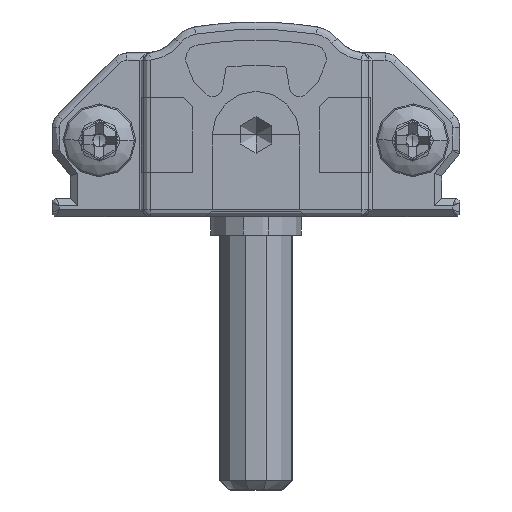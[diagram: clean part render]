
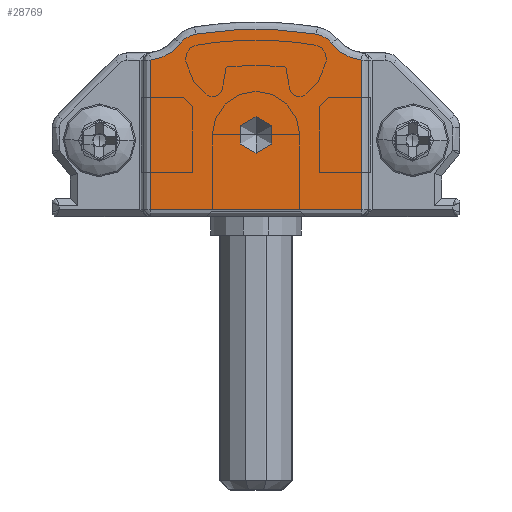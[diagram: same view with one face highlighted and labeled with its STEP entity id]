
A CAD part, front view. The second image highlights one B-rep face of the part: STEP entity #28769.
In plain terms, the highlighted planar face has unit normal (0, -1, 0).
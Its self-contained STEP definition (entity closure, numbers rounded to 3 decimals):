
#911 = EDGE_CURVE ( 'NONE', #23793, #43796, #14870, .T. ) ;
#1487 = LINE ( 'NONE', #26955, #41962 ) ;
#3488 = CARTESIAN_POINT ( 'NONE',  ( 17., -15., 8.612 ) ) ;
#3626 = CIRCLE ( 'NONE', #8170, 2.4 ) ;
#3684 = VERTEX_POINT ( 'NONE', #43825 ) ;
#3905 = EDGE_LOOP ( 'NONE', ( #8426, #6649 ) ) ;
#4184 = AXIS2_PLACEMENT_3D ( 'NONE', #19915, #5126, #45214 ) ;
#4241 = CARTESIAN_POINT ( 'NONE',  ( 11.2, -15., 4.5 ) ) ;
#4908 = AXIS2_PLACEMENT_3D ( 'NONE', #35182, #35852, #28516 ) ;
#5126 = DIRECTION ( 'NONE',  ( 0., -1., 0. ) ) ;
#5432 = CARTESIAN_POINT ( 'NONE',  ( 17.238, -15., 11. ) ) ;
#5562 = CARTESIAN_POINT ( 'NONE',  ( 15.332, -15., 9.541 ) ) ;
#6187 = VERTEX_POINT ( 'NONE', #8931 ) ;
#6649 = ORIENTED_EDGE ( 'NONE', *, *, #23174, .F. ) ;
#6765 = CARTESIAN_POINT ( 'NONE',  ( 11.2, -15., 5.5 ) ) ;
#7581 = CIRCLE ( 'NONE', #21248, 1.3 ) ;
#7962 = DIRECTION ( 'NONE',  ( 0., 0., -1. ) ) ;
#8170 = AXIS2_PLACEMENT_3D ( 'NONE', #5432, #45305, #12104 ) ;
#8426 = ORIENTED_EDGE ( 'NONE', *, *, #34293, .F. ) ;
#8850 = DIRECTION ( 'NONE',  ( 0., 0., -1. ) ) ;
#8931 = CARTESIAN_POINT ( 'NONE',  ( 5.4, -15., 8.612 ) ) ;
#11026 = PLANE ( 'NONE',  #46369 ) ;
#11241 = FACE_BOUND ( 'NONE', #3905, .T. ) ;
#11288 = CARTESIAN_POINT ( 'NONE',  ( 8.1, -15., 8.75 ) ) ;
#12034 = CIRCLE ( 'NONE', #44617, 1. ) ;
#12104 = DIRECTION ( 'NONE',  ( 0., 0., -1. ) ) ;
#12309 = VERTEX_POINT ( 'NONE', #45259 ) ;
#12486 = DIRECTION ( 'NONE',  ( 0., 0., -1. ) ) ;
#13040 = ORIENTED_EDGE ( 'NONE', *, *, #13323, .T. ) ;
#13184 = DIRECTION ( 'NONE',  ( 0., 0., -1. ) ) ;
#13323 = EDGE_CURVE ( 'NONE', #27069, #43384, #7581, .T. ) ;
#14870 = CIRCLE ( 'NONE', #41455, 1.3 ) ;
#15030 = FACE_OUTER_BOUND ( 'NONE', #29465, .T. ) ;
#15079 = DIRECTION ( 'NONE',  ( 0., -1., 0. ) ) ;
#15258 = CARTESIAN_POINT ( 'NONE',  ( 7.068, -15., 9.541 ) ) ;
#15341 = CARTESIAN_POINT ( 'NONE',  ( 5.4, -15., 0.4 ) ) ;
#18164 = DIRECTION ( 'NONE',  ( 0., -1., 0. ) ) ;
#18787 = CARTESIAN_POINT ( 'NONE',  ( 7.892, -15., 10.034 ) ) ;
#18805 = DIRECTION ( 'NONE',  ( 0., -1., 0. ) ) ;
#19141 = CARTESIAN_POINT ( 'NONE',  ( 22.15, -15., 3.606 ) ) ;
#19181 = EDGE_CURVE ( 'NONE', #6187, #28513, #1487, .T. ) ;
#19602 = ORIENTED_EDGE ( 'NONE', *, *, #19181, .T. ) ;
#19915 = CARTESIAN_POINT ( 'NONE',  ( 11.2, -15., -10.376 ) ) ;
#21248 = AXIS2_PLACEMENT_3D ( 'NONE', #27253, #41479, #12486 ) ;
#21465 = ORIENTED_EDGE ( 'NONE', *, *, #911, .T. ) ;
#21710 = LINE ( 'NONE', #46753, #42623 ) ;
#21777 = DIRECTION ( 'NONE',  ( 0., 0., -1. ) ) ;
#23174 = EDGE_CURVE ( 'NONE', #30959, #3684, #35894, .T. ) ;
#23793 = VERTEX_POINT ( 'NONE', #18787 ) ;
#24737 = CIRCLE ( 'NONE', #4908, 2.4 ) ;
#24998 = LINE ( 'NONE', #3488, #40081 ) ;
#25778 = VERTEX_POINT ( 'NONE', #46920 ) ;
#26508 = EDGE_CURVE ( 'NONE', #25778, #12309, #24998, .T. ) ;
#26876 = ORIENTED_EDGE ( 'NONE', *, *, #36060, .T. ) ;
#26955 = CARTESIAN_POINT ( 'NONE',  ( 5.4, -15., 0.4 ) ) ;
#27069 = VERTEX_POINT ( 'NONE', #5562 ) ;
#27253 = CARTESIAN_POINT ( 'NONE',  ( 14.3, -15., 8.75 ) ) ;
#28513 = VERTEX_POINT ( 'NONE', #15341 ) ;
#28516 = DIRECTION ( 'NONE',  ( 0., 0., -1. ) ) ;
#28769 = ADVANCED_FACE ( 'NONE', ( #15030, #11241 ), #11026, .T. ) ;
#29465 = EDGE_LOOP ( 'NONE', ( #45457, #37501, #13040, #30384, #21465, #40615, #19602, #26876 ) ) ;
#30384 = ORIENTED_EDGE ( 'NONE', *, *, #38260, .T. ) ;
#30959 = VERTEX_POINT ( 'NONE', #6765 ) ;
#32620 = EDGE_CURVE ( 'NONE', #43796, #6187, #24737, .T. ) ;
#33037 = DIRECTION ( 'NONE',  ( 1., 0., 0. ) ) ;
#33246 = DIRECTION ( 'NONE',  ( 0., 0., -1. ) ) ;
#34293 = EDGE_CURVE ( 'NONE', #3684, #30959, #12034, .T. ) ;
#34302 = EDGE_CURVE ( 'NONE', #12309, #27069, #3626, .T. ) ;
#35182 = CARTESIAN_POINT ( 'NONE',  ( 5.162, -15., 11. ) ) ;
#35502 = DIRECTION ( 'NONE',  ( 0., -1., 0. ) ) ;
#35852 = DIRECTION ( 'NONE',  ( 0., 1., 0. ) ) ;
#35894 = CIRCLE ( 'NONE', #38949, 1. ) ;
#36060 = EDGE_CURVE ( 'NONE', #28513, #25778, #21710, .T. ) ;
#36784 = CARTESIAN_POINT ( 'NONE',  ( 14.508, -15., 10.034 ) ) ;
#37501 = ORIENTED_EDGE ( 'NONE', *, *, #34302, .T. ) ;
#38260 = EDGE_CURVE ( 'NONE', #43384, #23793, #42886, .T. ) ;
#38949 = AXIS2_PLACEMENT_3D ( 'NONE', #45693, #35502, #13184 ) ;
#40081 = VECTOR ( 'NONE', #43180, 1000. ) ;
#40615 = ORIENTED_EDGE ( 'NONE', *, *, #32620, .T. ) ;
#41455 = AXIS2_PLACEMENT_3D ( 'NONE', #11288, #15079, #7962 ) ;
#41479 = DIRECTION ( 'NONE',  ( 0., -1., 0. ) ) ;
#41962 = VECTOR ( 'NONE', #8850, 1000. ) ;
#42623 = VECTOR ( 'NONE', #33037, 1000. ) ;
#42886 = CIRCLE ( 'NONE', #4184, 20.676 ) ;
#43180 = DIRECTION ( 'NONE',  ( 0., 0., 1. ) ) ;
#43384 = VERTEX_POINT ( 'NONE', #36784 ) ;
#43796 = VERTEX_POINT ( 'NONE', #15258 ) ;
#43825 = CARTESIAN_POINT ( 'NONE',  ( 11.2, -15., 3.5 ) ) ;
#44617 = AXIS2_PLACEMENT_3D ( 'NONE', #4241, #18805, #33246 ) ;
#45214 = DIRECTION ( 'NONE',  ( 0., 0., -1. ) ) ;
#45259 = CARTESIAN_POINT ( 'NONE',  ( 17., -15., 8.612 ) ) ;
#45305 = DIRECTION ( 'NONE',  ( 0., 1., 0. ) ) ;
#45457 = ORIENTED_EDGE ( 'NONE', *, *, #26508, .T. ) ;
#45693 = CARTESIAN_POINT ( 'NONE',  ( 11.2, -15., 4.5 ) ) ;
#46369 = AXIS2_PLACEMENT_3D ( 'NONE', #19141, #18164, #21777 ) ;
#46753 = CARTESIAN_POINT ( 'NONE',  ( 17., -15., 0.4 ) ) ;
#46920 = CARTESIAN_POINT ( 'NONE',  ( 17., -15., 0.4 ) ) ;
